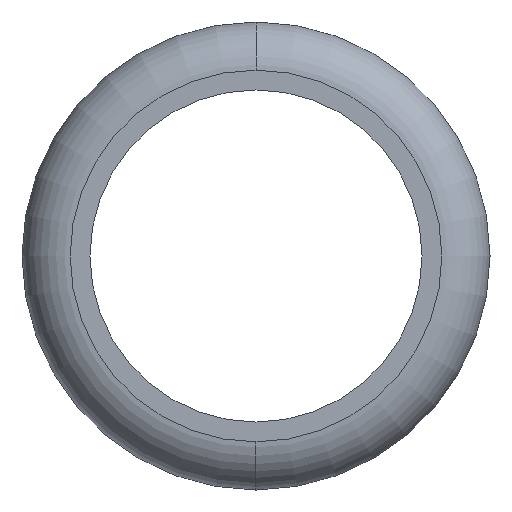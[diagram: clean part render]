
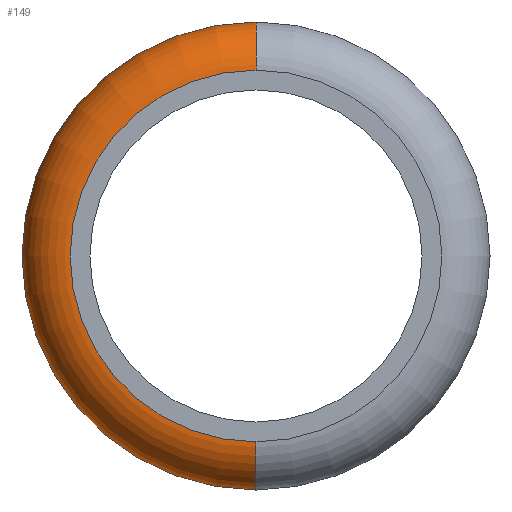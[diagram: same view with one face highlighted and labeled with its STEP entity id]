
A CAD part, left-side view. The second image highlights one B-rep face of the part: STEP entity #149.
In plain terms, the highlighted toroidal (fillet/blend) face has major radius 10.6 mm and minor radius 3 mm.
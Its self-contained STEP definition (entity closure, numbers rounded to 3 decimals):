
#149=ADVANCED_FACE('',(#334),#335,.T.);
#334=FACE_OUTER_BOUND('',#570,.T.);
#335=TOROIDAL_SURFACE('',#571,10.6,3.);
#570=EDGE_LOOP('',(#935,#936,#937,#938));
#571=AXIS2_PLACEMENT_3D('',#939,#940,#941);
#935=ORIENTED_EDGE('',*,*,#1329,.T.);
#936=ORIENTED_EDGE('',*,*,#1395,.F.);
#937=ORIENTED_EDGE('',*,*,#1396,.F.);
#938=ORIENTED_EDGE('',*,*,#1397,.F.);
#939=CARTESIAN_POINT('',(8.,0.0,0.));
#940=DIRECTION('',(-1.0,0.0,0.));
#941=DIRECTION('',(0.,0.0,1.0));
#1329=EDGE_CURVE('',#1528,#1527,#1572,.T.);
#1395=EDGE_CURVE('',#1674,#1527,#1675,.T.);
#1396=EDGE_CURVE('',#1676,#1674,#1677,.T.);
#1397=EDGE_CURVE('',#1528,#1676,#1678,.T.);
#1527=VERTEX_POINT('',#1826);
#1528=VERTEX_POINT('',#1827);
#1572=CIRCLE('',#1871,13.6);
#1674=VERTEX_POINT('',#1987);
#1675=CIRCLE('',#1988,3.);
#1676=VERTEX_POINT('',#1989);
#1677=CIRCLE('',#1990,10.6);
#1678=CIRCLE('',#1991,3.);
#1826=CARTESIAN_POINT('',(8.,0.,-13.6));
#1827=CARTESIAN_POINT('',(8.,0.,13.6));
#1871=AXIS2_PLACEMENT_3D('',#2222,#2223,#2224);
#1987=CARTESIAN_POINT('',(5.,0.,-10.6));
#1988=AXIS2_PLACEMENT_3D('',#2344,#2345,#2346);
#1989=CARTESIAN_POINT('',(5.,0.,10.6));
#1990=AXIS2_PLACEMENT_3D('',#2347,#2348,#2349);
#1991=AXIS2_PLACEMENT_3D('',#2350,#2351,#2352);
#2222=CARTESIAN_POINT('',(8.,0.0,0.));
#2223=DIRECTION('',(-1.0,0.0,0.));
#2224=DIRECTION('',(0.,0.0,1.0));
#2344=CARTESIAN_POINT('',(8.,0.,-10.6));
#2345=DIRECTION('',(0.,-1.0,0.));
#2346=DIRECTION('',(0.,0.,-1.0));
#2347=CARTESIAN_POINT('',(5.,0.0,0.));
#2348=DIRECTION('',(-1.0,0.0,0.));
#2349=DIRECTION('',(0.,0.0,-1.0));
#2350=CARTESIAN_POINT('',(8.,0.,10.6));
#2351=DIRECTION('',(0.,-1.0,0.));
#2352=DIRECTION('',(0.,0.,1.0));
